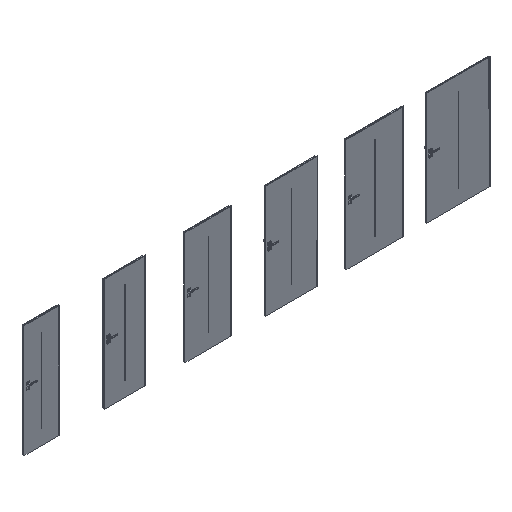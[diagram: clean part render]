
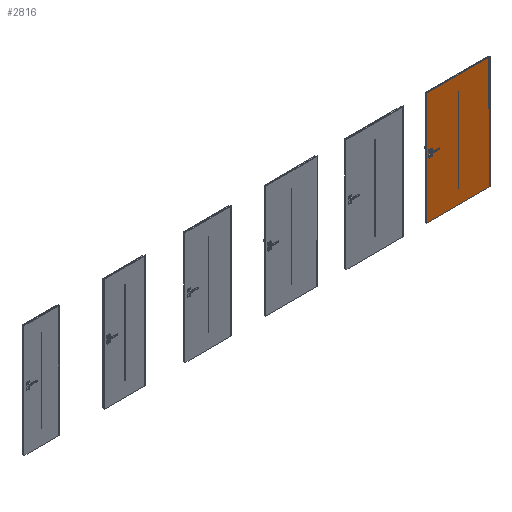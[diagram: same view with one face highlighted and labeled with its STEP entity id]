
A CAD part, isometric view. The second image highlights one B-rep face of the part: STEP entity #2816.
In plain terms, the highlighted planar face has unit normal (0, -1, 0).
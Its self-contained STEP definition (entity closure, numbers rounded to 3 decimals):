
#809=FACE_BOUND('',#5689,.T.);
#810=FACE_BOUND('',#5690,.T.);
#1856=CIRCLE('',#19427,3.);
#1857=CIRCLE('',#19428,3.);
#2816=ADVANCED_FACE('',(#809,#810),#3830,.F.);
#3830=PLANE('',#19429);
#5689=EDGE_LOOP('',(#8270,#8271,#8272,#8273));
#5690=EDGE_LOOP('',(#8274,#8275,#8276,#8277));
#8270=ORIENTED_EDGE('',*,*,#14214,.F.);
#8271=ORIENTED_EDGE('',*,*,#14215,.F.);
#8272=ORIENTED_EDGE('',*,*,#14216,.F.);
#8273=ORIENTED_EDGE('',*,*,#14217,.F.);
#8274=ORIENTED_EDGE('',*,*,#14218,.T.);
#8275=ORIENTED_EDGE('',*,*,#14219,.F.);
#8276=ORIENTED_EDGE('',*,*,#14212,.F.);
#8277=ORIENTED_EDGE('',*,*,#14220,.T.);
#12322=VERTEX_POINT('',#29647);
#12323=VERTEX_POINT('',#29649);
#12324=VERTEX_POINT('',#29653);
#12325=VERTEX_POINT('',#29654);
#12326=VERTEX_POINT('',#29656);
#12327=VERTEX_POINT('',#29658);
#12328=VERTEX_POINT('',#29661);
#12329=VERTEX_POINT('',#29662);
#14212=EDGE_CURVE('',#12322,#12323,#16496,.T.);
#14214=EDGE_CURVE('',#12324,#12325,#16498,.T.);
#14215=EDGE_CURVE('',#12326,#12324,#1856,.T.);
#14216=EDGE_CURVE('',#12327,#12326,#16499,.T.);
#14217=EDGE_CURVE('',#12325,#12327,#1857,.T.);
#14218=EDGE_CURVE('',#12328,#12329,#16500,.T.);
#14219=EDGE_CURVE('',#12323,#12329,#16501,.T.);
#14220=EDGE_CURVE('',#12322,#12328,#16502,.T.);
#16496=LINE('',#29648,#17936);
#16498=LINE('',#29652,#17938);
#16499=LINE('',#29657,#17939);
#16500=LINE('',#29660,#17940);
#16501=LINE('',#29663,#17941);
#16502=LINE('',#29664,#17942);
#17936=VECTOR('',#22361,1.);
#17938=VECTOR('',#22365,1.);
#17939=VECTOR('',#22368,1.);
#17940=VECTOR('',#22371,1.);
#17941=VECTOR('',#22372,1.);
#17942=VECTOR('',#22373,1.);
#19427=AXIS2_PLACEMENT_3D('',#29655,#22366,#22367);
#19428=AXIS2_PLACEMENT_3D('',#29659,#22369,#22370);
#19429=AXIS2_PLACEMENT_3D('',#29665,#22374,#22375);
#22361=DIRECTION('',(1.,0.,0.));
#22365=DIRECTION('',(0.,0.,-1.));
#22366=DIRECTION('',(0.,-1.,0.));
#22367=DIRECTION('',(1.,0.,0.));
#22368=DIRECTION('',(0.,0.,1.));
#22369=DIRECTION('',(0.,-1.,0.));
#22370=DIRECTION('',(1.,0.,0.));
#22371=DIRECTION('',(1.,0.,0.));
#22372=DIRECTION('',(0.,0.,-1.));
#22373=DIRECTION('',(0.,0.,-1.));
#22374=DIRECTION('',(0.,1.,0.));
#22375=DIRECTION('',(-1.,0.,0.));
#29647=CARTESIAN_POINT('',(6928.,-39.3,2030.));
#29648=CARTESIAN_POINT('',(7178.,-39.3,2030.));
#29649=CARTESIAN_POINT('',(8072.,-39.3,2030.));
#29652=CARTESIAN_POINT('',(7497.,-39.3,268.));
#29653=CARTESIAN_POINT('',(7497.,-39.3,1762.));
#29654=CARTESIAN_POINT('',(7497.,-39.3,268.));
#29655=CARTESIAN_POINT('',(7500.,-39.3,1762.));
#29656=CARTESIAN_POINT('',(7503.,-39.3,1762.));
#29657=CARTESIAN_POINT('',(7503.,-39.3,1762.));
#29658=CARTESIAN_POINT('',(7503.,-39.3,268.));
#29659=CARTESIAN_POINT('',(7500.,-39.3,268.));
#29660=CARTESIAN_POINT('',(7178.,-39.3,0.));
#29661=CARTESIAN_POINT('',(6928.,-39.3,0.));
#29662=CARTESIAN_POINT('',(8072.,-39.3,0.));
#29663=CARTESIAN_POINT('',(8072.,-39.3,2030.));
#29664=CARTESIAN_POINT('',(6928.,-39.3,2030.));
#29665=CARTESIAN_POINT('',(7178.,-39.3,2030.));
